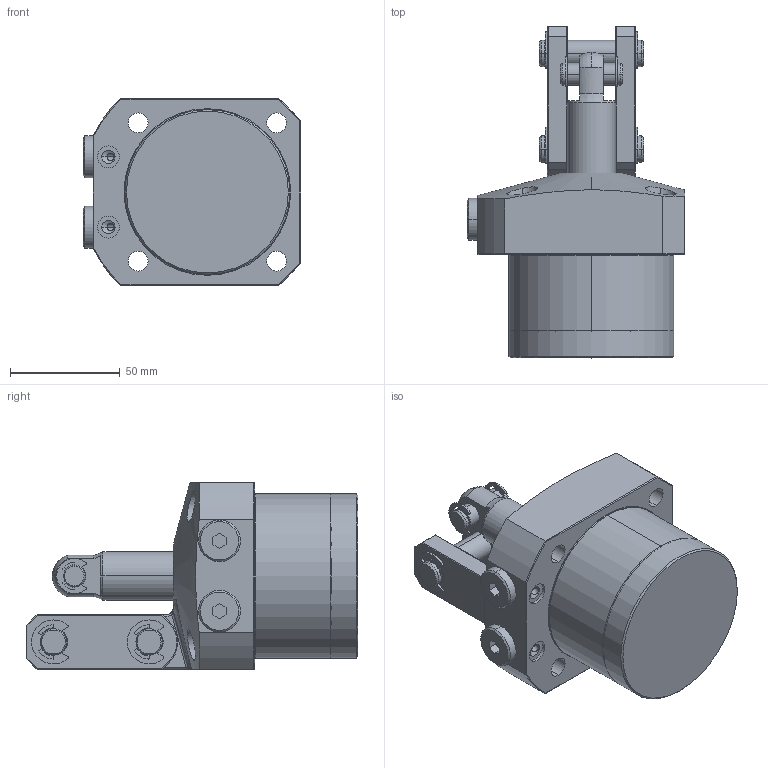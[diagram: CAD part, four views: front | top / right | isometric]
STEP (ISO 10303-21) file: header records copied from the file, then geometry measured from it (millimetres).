
FILE_DESCRIPTION(/* description */ (''),/* implementation_level */ '2;1');
FILE_NAME(/* name */ 'KTPC75-L.stp',/* time_stamp */ '2022-11-18T15:38:08+08:00',/* author */ (''),/* organization */ (''),/* preprocessor_version */ 'ST-DEVELOPER v16.7',/* originating_system */ 'SIEMENS PLM Software NX 12.0',/* authorisation */ '');
FILE_SCHEMA (('AP203_CONFIGURATION_CONTROLLED_3D_DESIGN_OF_MECHANICAL_PARTS_AND_ASSEMBLIES_MIM_LF { 1 0 10303 403 2 1 2}'));
Length unit declared in the file: millimetre
Products named in the file (10): KTPC75-L-09; KTPC75-L-03; KTPC75-L-05; KTPC75-L-01; KTPC75-L-08; KTPC75-L-02; KTPC75-L-07; KTPC75-L-06; KTPC75-L-04; LKA0750-CL_step
Assembly tree (16 placements, depth 2):
  LKA0750-CL_step
    KTPC75-L-04  x2
    KTPC75-L-06  x2
    KTPC75-L-07  x2
    KTPC75-L-02
    KTPC75-L-08  x4
    KTPC75-L-01
    KTPC75-L-05
    KTPC75-L-03
    KTPC75-L-09  x2
Bounding box: 99 x 151 x 85 mm (x, y, z)
Volume: 663539.8 mm3; surface area: 84431.4 mm2
Topology: 16 solids, 16 shells, 530 faces, 1276 edges, 800 vertices
Faces by surface type: cylinder 260, plane 147, torus 62, cone 51, bspline 8, sphere 2
Full cylindrical faces by diameter (mm): 75 x1
Entity records: 11418 total; most frequent: CARTESIAN_POINT 2535, DIRECTION 1687, ORIENTED_EDGE 1512, EDGE_CURVE 756, AXIS2_PLACEMENT_3D 691, VERTEX_POINT 470, EDGE_LOOP 362, CIRCLE 359
